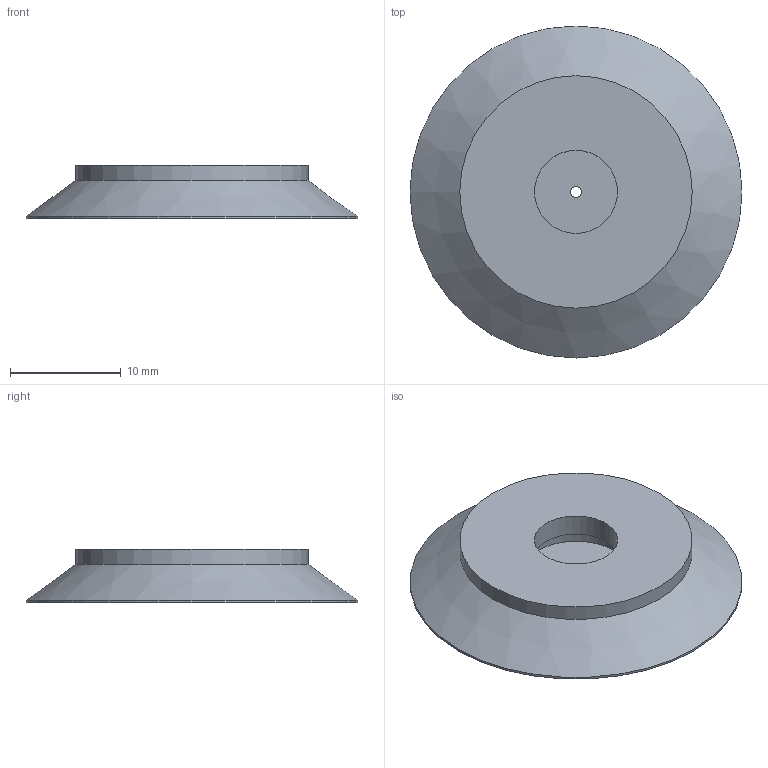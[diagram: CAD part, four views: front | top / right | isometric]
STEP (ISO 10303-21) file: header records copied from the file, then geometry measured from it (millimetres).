
FILE_DESCRIPTION( ( 'Unknown' ), '1' );
FILE_NAME( 'C:/Documents and Settings/Owner/官帕 拳搁/mark free flat pad/2016.05.02 FF LIP/FF30.stp', 'Unknown', ( 'Unknown' ), ( 'Unknown' ), 'PSStep 10.0', 'Unknown', ' ' );
FILE_SCHEMA( ( 'AUTOMOTIVE_DESIGN { 1 0 10303 214 1 1 1 1 }' ) );
Length unit declared in the file: millimetre
Products named in the file (1): 1
Bounding box: 30 x 30 x 4.8 mm (x, y, z)
Volume: 1863.8 mm3; surface area: 1933.4 mm2
Topology: 1 solids, 1 shells, 372 faces, 981 edges, 653 vertices
Faces by surface type: cylinder 186, plane 184, cone 2
Full cylindrical faces by diameter (mm): 1 x1, 7.5 x1, 9.5 x1, 21 x1, 25 x1, 30 x1
Entity records: 14560 total; most frequent: DIRECTION 2090, CARTESIAN_POINT 1997, ORIENTED_EDGE 1944, EDGE_CURVE 972, AXIS2_PLACEMENT_3D 745, VERTEX_POINT 652, LINE 600, VECTOR 600
